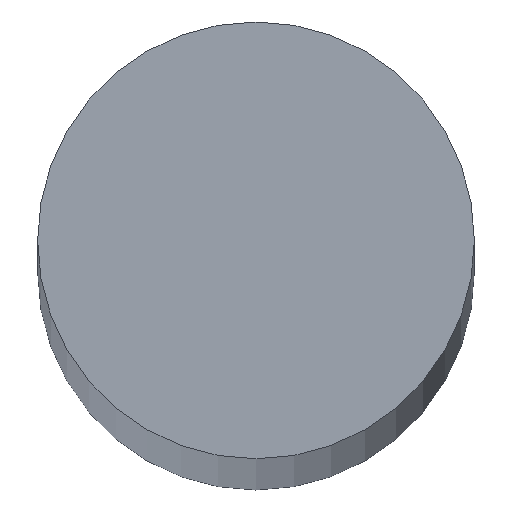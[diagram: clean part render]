
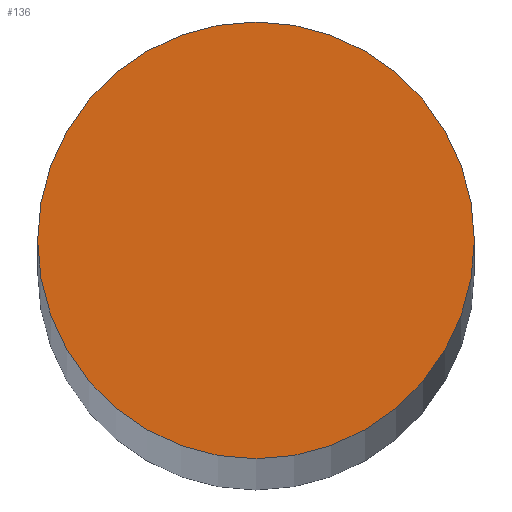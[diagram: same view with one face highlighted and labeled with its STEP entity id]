
A CAD part, top view. The second image highlights one B-rep face of the part: STEP entity #136.
In plain terms, the highlighted planar face has unit normal (0, 0, 1).
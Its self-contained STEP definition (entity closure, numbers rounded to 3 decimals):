
#3 = EDGE_LOOP ( 'NONE', ( #6, #5 ) ) ;
#5 = ORIENTED_EDGE ( 'NONE', *, *, #129, .T. ) ;
#6 = ORIENTED_EDGE ( 'NONE', *, *, #127, .T. ) ;
#29 = CIRCLE ( 'NONE', #139, 6. ) ;
#31 = CIRCLE ( 'NONE', #131, 6. ) ;
#34 = FACE_OUTER_BOUND ( 'NONE', #3, .T. ) ;
#55 = AXIS2_PLACEMENT_3D ( 'NONE', #97, #105, #106 ) ;
#63 = VERTEX_POINT ( 'NONE', #66 ) ;
#66 = CARTESIAN_POINT ( 'NONE',  ( 6., 0., 245.5 ) ) ;
#67 = VERTEX_POINT ( 'NONE', #77 ) ;
#77 = CARTESIAN_POINT ( 'NONE',  ( -6., 0., 245.5 ) ) ;
#83 = CARTESIAN_POINT ( 'NONE',  ( 0., 0., 245.5 ) ) ;
#84 = DIRECTION ( 'NONE',  ( 0., 0., 1. ) ) ;
#85 = DIRECTION ( 'NONE',  ( 1., 0., 0. ) ) ;
#86 = CARTESIAN_POINT ( 'NONE',  ( 0., 0., 245.5 ) ) ;
#88 = DIRECTION ( 'NONE',  ( 0., 0., 1. ) ) ;
#89 = DIRECTION ( 'NONE',  ( 1., 0., 0. ) ) ;
#90 = PLANE ( 'NONE',  #55 ) ;
#97 = CARTESIAN_POINT ( 'NONE',  ( 0., 0., 245.5 ) ) ;
#105 = DIRECTION ( 'NONE',  ( 0., 0., 1. ) ) ;
#106 = DIRECTION ( 'NONE',  ( 1., 0., 0. ) ) ;
#127 = EDGE_CURVE ( 'NONE', #67, #63, #29, .T. ) ;
#129 = EDGE_CURVE ( 'NONE', #63, #67, #31, .T. ) ;
#131 = AXIS2_PLACEMENT_3D ( 'NONE', #86, #88, #89 ) ;
#136 = ADVANCED_FACE ( 'NONE', ( #34 ), #90, .T. ) ;
#139 = AXIS2_PLACEMENT_3D ( 'NONE', #83, #84, #85 ) ;
